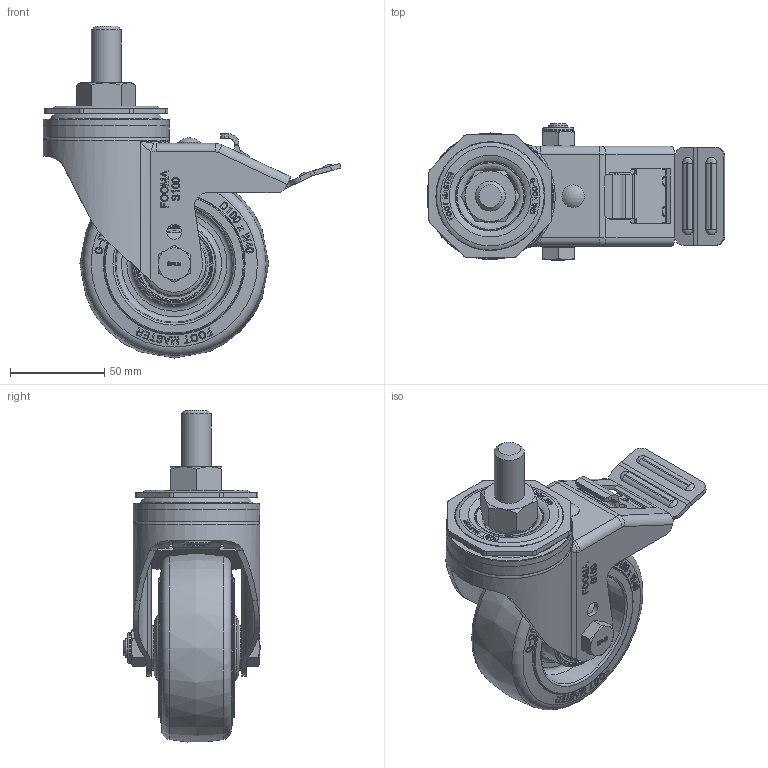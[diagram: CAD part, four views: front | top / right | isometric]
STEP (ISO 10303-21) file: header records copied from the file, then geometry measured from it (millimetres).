
FILE_DESCRIPTION(/* description */ (''),/* implementation_level */ '2;1');
FILE_NAME(/* name */ '\\192.168.10.38\지덕공유\1.기술연구소\2.연구개발 진행중\98.스테인레스캐스터 개발건_2023.10.26\제품설계\3D\홈페이지용\SPLM-100-BSS-HRD.stp',/* time_stamp */ '2025-02-20T10:48:50+09:00',/* author */ ('admin'),/* organization */ ('지덕산업'),/* preprocessor_version */ 'ST-DEVELOPER v18.1',/* originating_system */ 'Autodesk Inventor 2021',/* authorisation */ '');
FILE_SCHEMA (('CONFIG_CONTROL_DESIGN'));
Products named in the file (1): SPLM-100-BSS-HRD
Bounding box: 157.79 x 72.3 x 175.83 mm (x, y, z)
Volume: 387232.2 mm3; surface area: 88227.1 mm2
Topology: 1 solids, 1 shells, 1564 faces, 4154 edges, 2709 vertices
Faces by surface type: plane 720, bspline 506, cylinder 180, cone 109, torus 48, sphere 1
Full cylindrical faces by diameter (mm): 6 x1, 8 x2, 9 x1, 10 x2, 11 x1, 12 x1, 15.875 x1, 16 x2, 16.5 x1, 30 x1, 40.105 x1, 40.971 x1, 54 x1, 67 x1
Entity records: 52800 total; most frequent: CARTESIAN_POINT 18472, ORIENTED_EDGE 8300, DIRECTION 5303, EDGE_CURVE 4150, VERTEX_POINT 2709, LINE 2013, VECTOR 2013, EDGE_LOOP 1697
